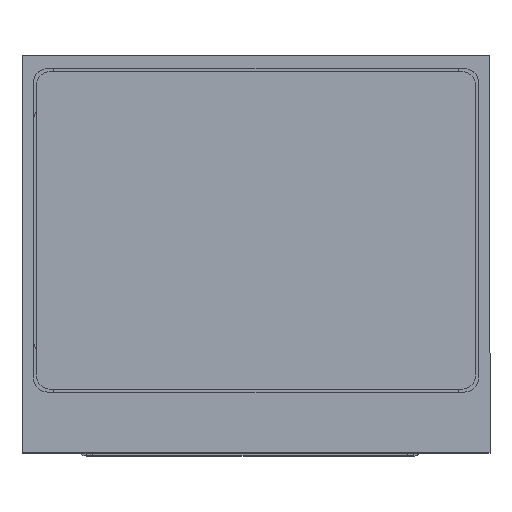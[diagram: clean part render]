
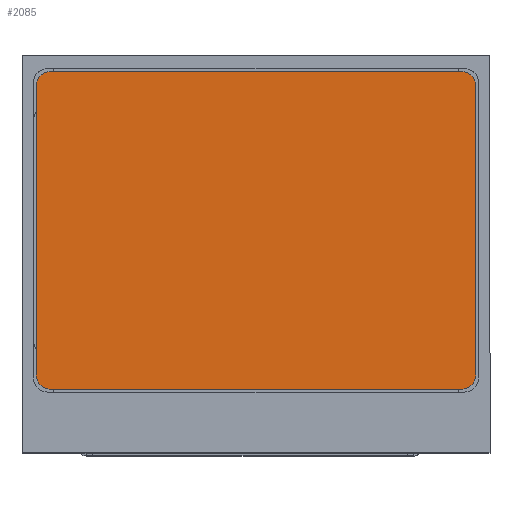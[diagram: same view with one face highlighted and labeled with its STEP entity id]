
A CAD part, top view. The second image highlights one B-rep face of the part: STEP entity #2085.
In plain terms, the highlighted planar face has unit normal (0, 0, 1).
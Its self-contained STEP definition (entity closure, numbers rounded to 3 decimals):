
#12 = CARTESIAN_POINT ( 'NONE',  ( -117.017, 64.5, 119.284 ) ) ;
#61 = CIRCLE ( 'NONE', #631, 5. ) ;
#76 = DIRECTION ( 'NONE',  ( 0., -1., 0. ) ) ;
#86 = DIRECTION ( 'NONE',  ( 0., 0., 1. ) ) ;
#100 = VERTEX_POINT ( 'NONE', #2158 ) ;
#124 = CARTESIAN_POINT ( 'NONE',  ( 32.983, 64.5, 119.284 ) ) ;
#144 = DIRECTION ( 'NONE',  ( 0., 0., 1. ) ) ;
#184 = AXIS2_PLACEMENT_3D ( 'NONE', #1265, #86, #1469 ) ;
#413 = DIRECTION ( 'NONE',  ( 0., 0., 1. ) ) ;
#432 = VERTEX_POINT ( 'NONE', #124 ) ;
#480 = EDGE_CURVE ( 'NONE', #2018, #432, #731, .T. ) ;
#536 = VECTOR ( 'NONE', #1657, 1000. ) ;
#566 = CARTESIAN_POINT ( 'NONE',  ( 37.983, -47.5, 119.284 ) ) ;
#601 = ORIENTED_EDGE ( 'NONE', *, *, #912, .T. ) ;
#612 = CARTESIAN_POINT ( 'NONE',  ( 32.983, 59.5, 119.284 ) ) ;
#631 = AXIS2_PLACEMENT_3D ( 'NONE', #2476, #1252, #76 ) ;
#731 = CIRCLE ( 'NONE', #2094, 5. ) ;
#803 = DIRECTION ( 'NONE',  ( 0., -1., 0. ) ) ;
#814 = EDGE_CURVE ( 'NONE', #2138, #100, #1630, .T. ) ;
#912 = EDGE_CURVE ( 'NONE', #2092, #2138, #978, .T. ) ;
#978 = LINE ( 'NONE', #566, #1204 ) ;
#1012 = VECTOR ( 'NONE', #2270, 1000. ) ;
#1087 = ORIENTED_EDGE ( 'NONE', *, *, #2200, .T. ) ;
#1101 = ORIENTED_EDGE ( 'NONE', *, *, #1277, .T. ) ;
#1204 = VECTOR ( 'NONE', #1972, 1000. ) ;
#1252 = DIRECTION ( 'NONE',  ( 0., 0., 1. ) ) ;
#1265 = CARTESIAN_POINT ( 'NONE',  ( -112.017, -42.5, 119.284 ) ) ;
#1277 = EDGE_CURVE ( 'NONE', #2402, #1679, #61, .T. ) ;
#1292 = EDGE_CURVE ( 'NONE', #100, #2018, #2140, .T. ) ;
#1305 = LINE ( 'NONE', #2527, #1915 ) ;
#1321 = CARTESIAN_POINT ( 'NONE',  ( 32.983, -42.5, 119.284 ) ) ;
#1326 = CARTESIAN_POINT ( 'NONE',  ( -117.017, -42.5, 119.284 ) ) ;
#1469 = DIRECTION ( 'NONE',  ( 0., -1., 0. ) ) ;
#1516 = DIRECTION ( 'NONE',  ( 0., -1., 0. ) ) ;
#1530 = DIRECTION ( 'NONE',  ( 0., -1., 0. ) ) ;
#1565 = ORIENTED_EDGE ( 'NONE', *, *, #480, .T. ) ;
#1569 = CARTESIAN_POINT ( 'NONE',  ( -117.017, 59.5, 119.284 ) ) ;
#1572 = AXIS2_PLACEMENT_3D ( 'NONE', #12, #413, #1818 ) ;
#1630 = CIRCLE ( 'NONE', #1673, 5. ) ;
#1657 = DIRECTION ( 'NONE',  ( 0., 1., 0. ) ) ;
#1667 = CARTESIAN_POINT ( 'NONE',  ( 37.983, -47.5, 119.284 ) ) ;
#1673 = AXIS2_PLACEMENT_3D ( 'NONE', #1321, #144, #1530 ) ;
#1679 = VERTEX_POINT ( 'NONE', #1569 ) ;
#1687 = EDGE_LOOP ( 'NONE', ( #1697, #1565, #1087, #1101, #1945, #1944, #601, #2600 ) ) ;
#1697 = ORIENTED_EDGE ( 'NONE', *, *, #1292, .T. ) ;
#1810 = FACE_OUTER_BOUND ( 'NONE', #1687, .T. ) ;
#1818 = DIRECTION ( 'NONE',  ( 0., -1., 0. ) ) ;
#1915 = VECTOR ( 'NONE', #1516, 1000. ) ;
#1918 = EDGE_CURVE ( 'NONE', #1679, #2299, #1305, .T. ) ;
#1944 = ORIENTED_EDGE ( 'NONE', *, *, #2223, .T. ) ;
#1945 = ORIENTED_EDGE ( 'NONE', *, *, #1918, .T. ) ;
#1972 = DIRECTION ( 'NONE',  ( 1., 0., 0. ) ) ;
#2012 = PLANE ( 'NONE',  #1572 ) ;
#2018 = VERTEX_POINT ( 'NONE', #2192 ) ;
#2019 = DIRECTION ( 'NONE',  ( 0., 0., 1. ) ) ;
#2067 = CARTESIAN_POINT ( 'NONE',  ( 37.983, 64.5, 119.284 ) ) ;
#2085 = ADVANCED_FACE ( 'NONE', ( #1810 ), #2012, .T. ) ;
#2092 = VERTEX_POINT ( 'NONE', #2414 ) ;
#2094 = AXIS2_PLACEMENT_3D ( 'NONE', #612, #2019, #803 ) ;
#2138 = VERTEX_POINT ( 'NONE', #2242 ) ;
#2140 = LINE ( 'NONE', #1667, #536 ) ;
#2158 = CARTESIAN_POINT ( 'NONE',  ( 37.983, -42.5, 119.284 ) ) ;
#2192 = CARTESIAN_POINT ( 'NONE',  ( 37.983, 59.5, 119.284 ) ) ;
#2200 = EDGE_CURVE ( 'NONE', #432, #2402, #2578, .T. ) ;
#2223 = EDGE_CURVE ( 'NONE', #2299, #2092, #2433, .T. ) ;
#2242 = CARTESIAN_POINT ( 'NONE',  ( 32.983, -47.5, 119.284 ) ) ;
#2247 = CARTESIAN_POINT ( 'NONE',  ( -112.017, 64.5, 119.284 ) ) ;
#2270 = DIRECTION ( 'NONE',  ( -1., 0., 0. ) ) ;
#2299 = VERTEX_POINT ( 'NONE', #1326 ) ;
#2402 = VERTEX_POINT ( 'NONE', #2247 ) ;
#2414 = CARTESIAN_POINT ( 'NONE',  ( -112.017, -47.5, 119.284 ) ) ;
#2433 = CIRCLE ( 'NONE', #184, 5. ) ;
#2476 = CARTESIAN_POINT ( 'NONE',  ( -112.017, 59.5, 119.284 ) ) ;
#2527 = CARTESIAN_POINT ( 'NONE',  ( -117.017, -47.5, 119.284 ) ) ;
#2578 = LINE ( 'NONE', #2067, #1012 ) ;
#2600 = ORIENTED_EDGE ( 'NONE', *, *, #814, .T. ) ;
